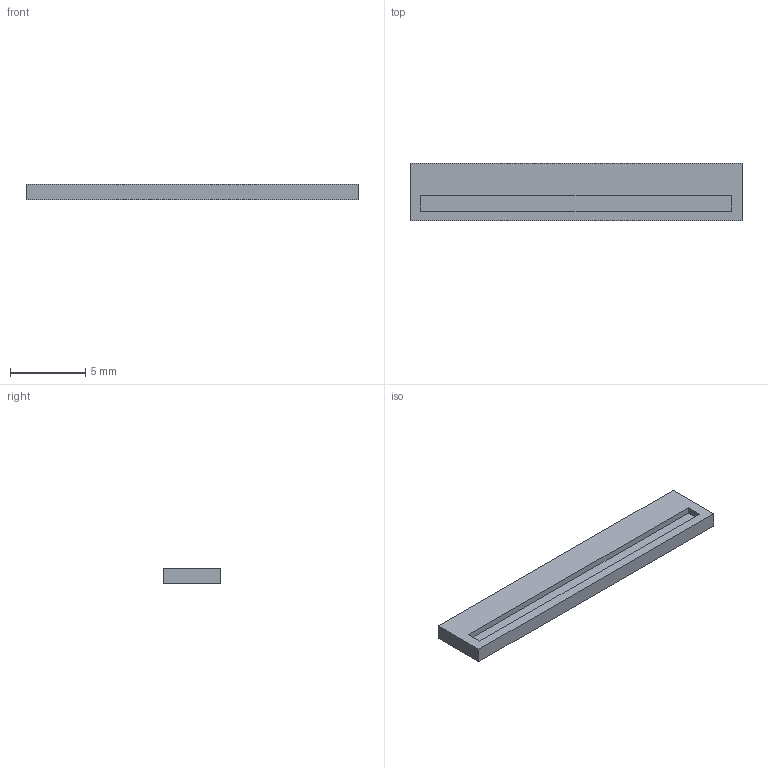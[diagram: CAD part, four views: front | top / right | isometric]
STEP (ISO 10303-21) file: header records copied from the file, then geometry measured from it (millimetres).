
FILE_DESCRIPTION(('Open CASCADE Model'),'2;1');
FILE_NAME('Open CASCADE Shape Model','2026-09-03T12:36:49',('Author'),( 'Open CASCADE'),'Open CASCADE STEP processor 7.9','Open CASCADE 7.9' ,'Unknown');
FILE_SCHEMA(('AUTOMOTIVE_DESIGN { 1 0 10303 214 1 1 1 1 }'));
Length unit declared in the file: millimetre
Products named in the file (1): Open CASCADE STEP translator 7.9 5
Bounding box: 22 x 3.8 x 1 mm (x, y, z)
Volume: 74.4 mm3; surface area: 237.2 mm2
Topology: 1 solids, 1 shells, 11 faces, 24 edges, 16 vertices
Faces by surface type: plane 11
Entity records: 616 total; most frequent: CARTESIAN_POINT 104, DIRECTION 92, LINE 68, VECTOR 68, ORIENTED_EDGE 48, PCURVE 48, DEFINITIONAL_REPRESENTATION 48, EDGE_CURVE 24
